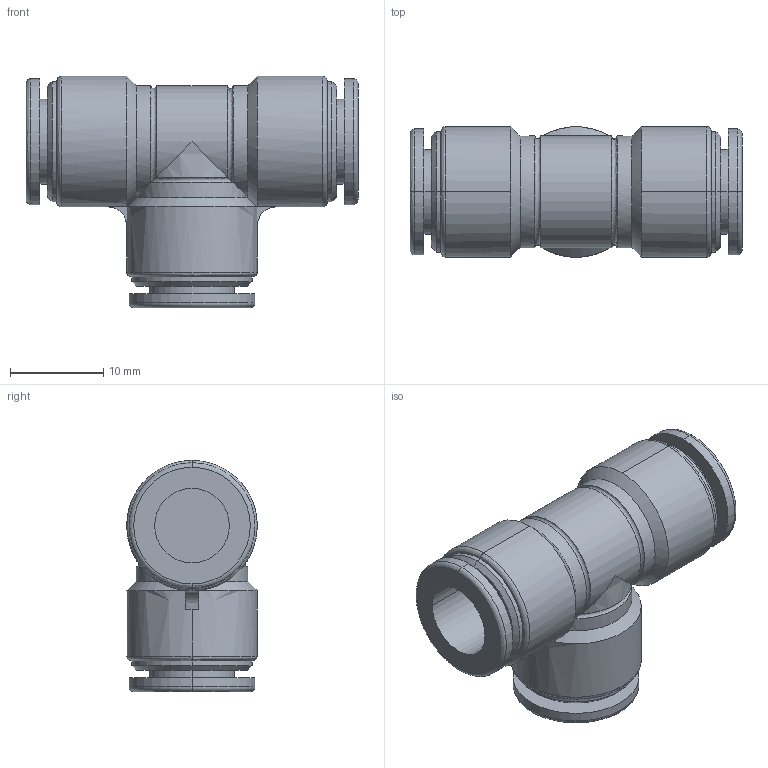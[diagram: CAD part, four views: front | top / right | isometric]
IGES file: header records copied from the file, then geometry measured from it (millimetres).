
Global section: file name: No Iges File Name specified; native system: AutoDesk Inventor R11.0; preprocessor: AutoDesk Inventor Iges Exporter R11.0; author: No Author specified; organization: No Organization specified; date: 20120321.162301; units: millimetre
Bounding box: 35.6 x 14 x 24.8 mm (x, y, z)
Volume: 4412.5 mm3; surface area: 3822.6 mm2
Topology: 1 solids, 1 shells, 92 faces, 216 edges, 138 vertices
Faces by surface type: bspline 47, cylinder 16, plane 14, torus 6, cone 5, revolution 4
